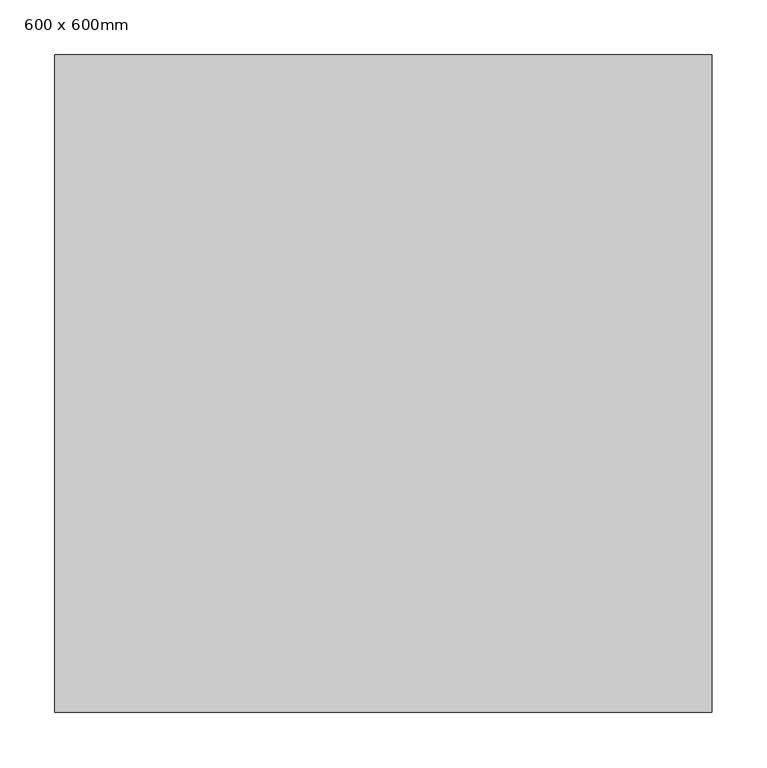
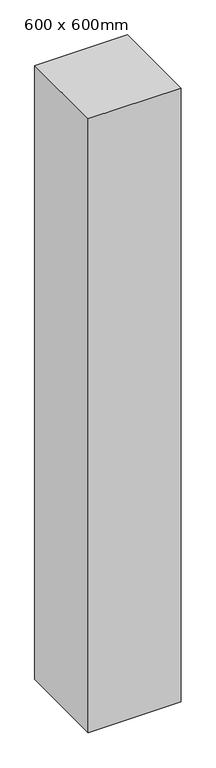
"""IFC4 building model written with IfcOpenShell, lengths in millimetres: column geometry, 矩形柱 : 600 x 600mm."""

from ifc_helpers import new_model, si_unit, frame, origin, place, context, project, spatial, polyline, outline, extrude, source, transform, mapped, element, save


def column_600_x_600mm_19dc34fb(model_context):
    return source(origin(), model_context, "Body", "SweptSolid", [
        extrude(outline(polyline([(300.0, -300.0), (-300.0, -300.0), (-300.0, 300.0), (300.0, 300.0), (300.0, -300.0)])), frame((0.0, 0.0, 8400.0), z_axis=(0.0, 0.0, 1.0), x_axis=(1.0, 0.0, 0.0)), (0.0, 0.0, 1.0), 4200.0),
    ])


if __name__ == "__main__":
    model = new_model("IFC4")
    model_context = context("Model", 3, world=origin())
    ifc_project = project(units=[si_unit("LENGTHUNIT", "METRE", prefix="MILLI")], contexts=[model_context])
    site = spatial("IfcSite", under=ifc_project)
    building = spatial("IfcBuilding", under=site)
    placement = place(None, origin())
    column_600_x_600mm_shape = column_600_x_600mm_19dc34fb(model_context)
    element("IfcColumn", 1, ObjectType="矩形柱 : 600 x 600mm", at=placement, inside=building, context=model_context, shape_type="MappedRepresentation", body=[
        mapped(column_600_x_600mm_shape, transform((0.0, 0.0, 0.0), x_axis=(1.0, 0.0, 0.0), y_axis=(0.0, 1.0, 0.0), z_axis=(0.0, 0.0, 1.0))),
    ])
    save(model, "model.ifc")
